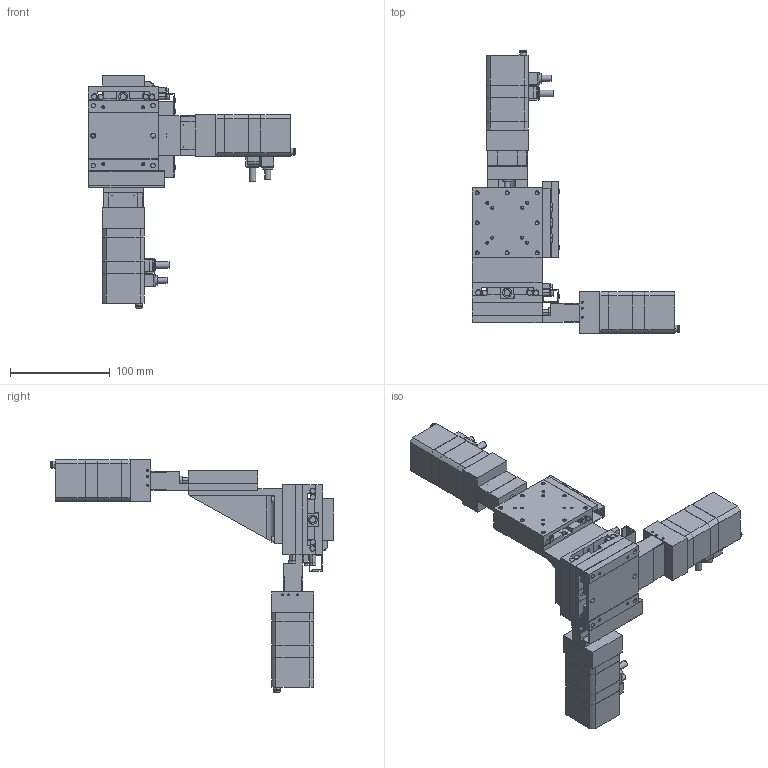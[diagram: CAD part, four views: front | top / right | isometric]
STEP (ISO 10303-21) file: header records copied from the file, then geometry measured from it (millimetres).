
FILE_DESCRIPTION(('STEP AP203'),'1');
FILE_NAME('C:/3D-Trans/3D_PMZG715T-R□-MA+240129.step','2024-03-14T08:15:47',(' '),(' '),'Spatial InterOp 3D',' ',' ');
FILE_SCHEMA(('CONFIG_CONTROL_DESIGN'));
Length unit declared in the file: millimetre
Products named in the file (19): 1; 2; 3; 4; 5; 6; 7; 8; 9; 10; 11; 12; 13; 14; 15; 16; 17; 18; 19
Bounding box: 208 x 284 x 233 mm (x, y, z)
Volume: 885011.7 mm3; surface area: 245666.8 mm2
Topology: 19 solids, 19 shells, 1961 faces, 4942 edges, 3099 vertices
Faces by surface type: plane 968, cylinder 661, cone 320, torus 12
Entity records: 59332 total; most frequent: DIRECTION 10544, CARTESIAN_POINT 10129, ORIENTED_EDGE 9716, EDGE_CURVE 4858, AXIS2_PLACEMENT_3D 3724, VERTEX_POINT 3099, LINE 3096, VECTOR 3096
